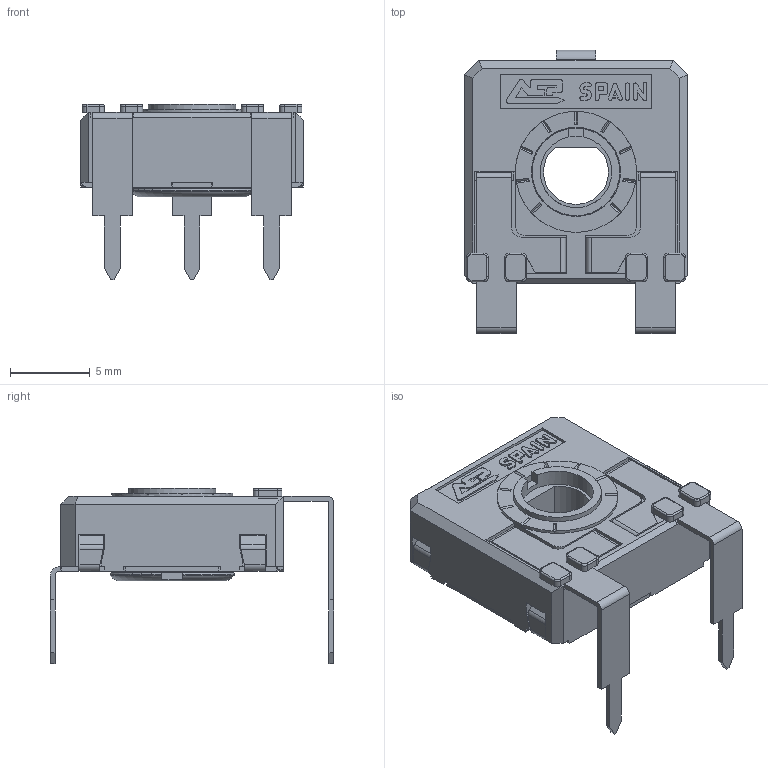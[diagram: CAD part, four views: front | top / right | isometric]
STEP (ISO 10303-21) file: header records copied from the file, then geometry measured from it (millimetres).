
FILE_DESCRIPTION(/* description */ (''),/* implementation_level */ '2;1');
FILE_NAME(/* name */ 'COMCA14DV17,5.stp',/* time_stamp */ '2026-04-01T16:27:03+02:00',/* author */ ('CEM'),/* organization */ (''),/* preprocessor_version */ 'ST-DEVELOPER v20.1',/* originating_system */ 'Autodesk Inventor 2026',/* authorisation */ '');
FILE_SCHEMA (('AUTOMOTIVE_DESIGN { 1 0 10303 214 3 1 1 }'));
Length unit declared in the file: millimetre
Products named in the file (1): CARCASA CA14 PGA
Bounding box: 14 x 17.8 x 11 mm (x, y, z)
Volume: 536.2 mm3; surface area: 1516.4 mm2
Topology: 1 solids, 1 shells, 668 faces, 1881 edges, 1209 vertices
Faces by surface type: plane 495, cylinder 136, torus 23, bspline 8, cone 6
Full cylindrical faces by diameter (mm): 4.5 x1, 5.5 x1, 5.6 x1, 5.752 x1, 6.8 x1, 7.6 x1
Entity records: 21765 total; most frequent: CARTESIAN_POINT 4056, ORIENTED_EDGE 3762, DIRECTION 3509, EDGE_CURVE 1881, LINE 1485, VECTOR 1485, VERTEX_POINT 1209, AXIS2_PLACEMENT_3D 1012
